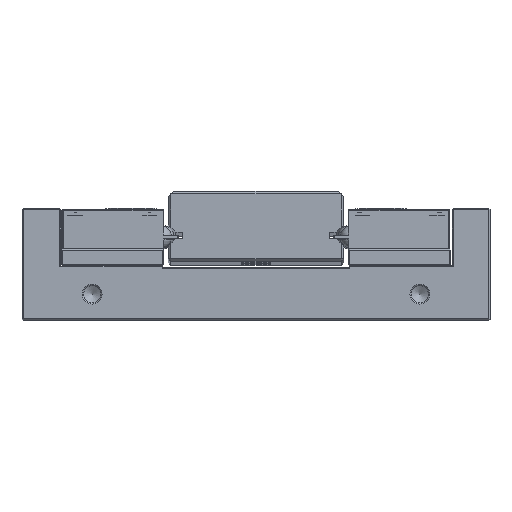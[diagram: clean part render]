
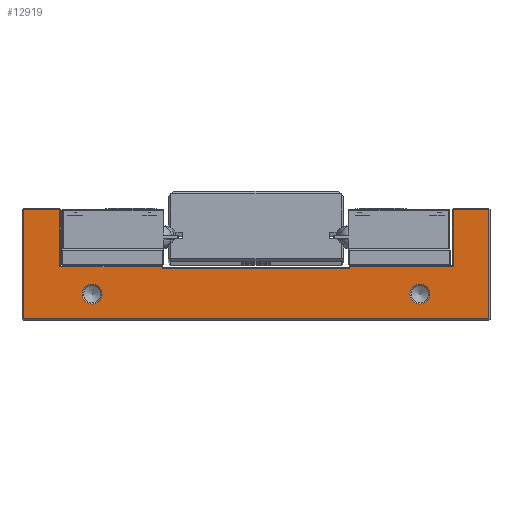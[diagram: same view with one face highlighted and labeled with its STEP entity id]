
A CAD part, top view. The second image highlights one B-rep face of the part: STEP entity #12919.
In plain terms, the highlighted planar face has unit normal (0, 0, 1).
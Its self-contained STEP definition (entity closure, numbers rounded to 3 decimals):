
#440=FACE_BOUND('',#2300,.T.);
#441=FACE_BOUND('',#2301,.T.);
#878=PLANE('',#14043);
#1499=FACE_OUTER_BOUND('',#2299,.T.);
#2299=EDGE_LOOP('',(#10599,#10600,#10601,#10602,#10603,#10604,#10605,#10606,
#10607,#10608,#10609,#10610));
#2300=EDGE_LOOP('',(#10611));
#2301=EDGE_LOOP('',(#10612));
#3335=LINE('',#21620,#4394);
#3373=LINE('',#21739,#4432);
#3374=LINE('',#21742,#4433);
#3376=LINE('',#21746,#4435);
#3377=LINE('',#21748,#4436);
#3378=LINE('',#21750,#4437);
#3379=LINE('',#21752,#4438);
#3380=LINE('',#21754,#4439);
#3381=LINE('',#21756,#4440);
#3382=LINE('',#21758,#4441);
#3383=LINE('',#21759,#4442);
#3384=LINE('',#21760,#4443);
#4394=VECTOR('',#16713,10.);
#4432=VECTOR('',#16843,10.);
#4433=VECTOR('',#16846,10.);
#4435=VECTOR('',#16850,10.);
#4436=VECTOR('',#16851,10.);
#4437=VECTOR('',#16852,10.);
#4438=VECTOR('',#16853,10.);
#4439=VECTOR('',#16854,10.);
#4440=VECTOR('',#16855,10.);
#4441=VECTOR('',#16856,10.);
#4442=VECTOR('',#16857,10.);
#4443=VECTOR('',#16858,10.);
#5002=CIRCLE('',#14044,3.824);
#5003=CIRCLE('',#14045,3.824);
#5973=VERTEX_POINT('',#21617);
#5974=VERTEX_POINT('',#21619);
#6008=VERTEX_POINT('',#21735);
#6009=VERTEX_POINT('',#21737);
#6010=VERTEX_POINT('',#21741);
#6011=VERTEX_POINT('',#21745);
#6012=VERTEX_POINT('',#21747);
#6013=VERTEX_POINT('',#21749);
#6014=VERTEX_POINT('',#21751);
#6015=VERTEX_POINT('',#21753);
#6016=VERTEX_POINT('',#21755);
#6017=VERTEX_POINT('',#21757);
#6018=VERTEX_POINT('',#21761);
#6019=VERTEX_POINT('',#21763);
#7547=EDGE_CURVE('',#5974,#5973,#3335,.T.);
#7607=EDGE_CURVE('',#6009,#6008,#3373,.T.);
#7608=EDGE_CURVE('',#6010,#6008,#3374,.T.);
#7610=EDGE_CURVE('',#6011,#6009,#3376,.T.);
#7611=EDGE_CURVE('',#6012,#6011,#3377,.T.);
#7612=EDGE_CURVE('',#6013,#6012,#3378,.T.);
#7613=EDGE_CURVE('',#6014,#6013,#3379,.T.);
#7614=EDGE_CURVE('',#6015,#6014,#3380,.T.);
#7615=EDGE_CURVE('',#6016,#6015,#3381,.T.);
#7616=EDGE_CURVE('',#6017,#6016,#3382,.T.);
#7617=EDGE_CURVE('',#5974,#6017,#3383,.T.);
#7618=EDGE_CURVE('',#6010,#5973,#3384,.T.);
#7619=EDGE_CURVE('',#6018,#6018,#5002,.T.);
#7620=EDGE_CURVE('',#6019,#6019,#5003,.T.);
#10599=ORIENTED_EDGE('',*,*,#7607,.F.);
#10600=ORIENTED_EDGE('',*,*,#7610,.F.);
#10601=ORIENTED_EDGE('',*,*,#7611,.F.);
#10602=ORIENTED_EDGE('',*,*,#7612,.F.);
#10603=ORIENTED_EDGE('',*,*,#7613,.F.);
#10604=ORIENTED_EDGE('',*,*,#7614,.F.);
#10605=ORIENTED_EDGE('',*,*,#7615,.F.);
#10606=ORIENTED_EDGE('',*,*,#7616,.F.);
#10607=ORIENTED_EDGE('',*,*,#7617,.F.);
#10608=ORIENTED_EDGE('',*,*,#7547,.T.);
#10609=ORIENTED_EDGE('',*,*,#7618,.F.);
#10610=ORIENTED_EDGE('',*,*,#7608,.T.);
#10611=ORIENTED_EDGE('',*,*,#7619,.F.);
#10612=ORIENTED_EDGE('',*,*,#7620,.F.);
#12919=ADVANCED_FACE('',(#1499,#440,#441),#878,.T.);
#14043=AXIS2_PLACEMENT_3D('',#21744,#16848,#16849);
#14044=AXIS2_PLACEMENT_3D('',#21762,#16859,#16860);
#14045=AXIS2_PLACEMENT_3D('',#21764,#16861,#16862);
#16713=DIRECTION('',(0.,-1.,0.));
#16843=DIRECTION('',(1.,0.,0.));
#16846=DIRECTION('',(0.,1.,0.));
#16848=DIRECTION('center_axis',(0.,0.,
1.));
#16849=DIRECTION('ref_axis',(1.,0.,0.));
#16850=DIRECTION('',(0.,-1.,0.));
#16851=DIRECTION('',(1.,0.,0.));
#16852=DIRECTION('',(0.,1.,0.));
#16853=DIRECTION('',(-1.,0.,0.));
#16854=DIRECTION('',(0.,-1.,0.));
#16855=DIRECTION('',(1.,0.,0.));
#16856=DIRECTION('',(0.,1.,0.));
#16857=DIRECTION('',(1.,0.,0.));
#16858=DIRECTION('',(1.,0.,0.));
#16859=DIRECTION('center_axis',(0.,0.,
1.));
#16860=DIRECTION('ref_axis',(-1.,0.,0.));
#16861=DIRECTION('center_axis',(0.,0.,
1.));
#16862=DIRECTION('ref_axis',(-1.,0.,0.));
#21617=CARTESIAN_POINT('',(27.11,-21.38,59.754));
#21619=CARTESIAN_POINT('',(27.11,-20.58,59.754));
#21620=CARTESIAN_POINT('',(27.11,-20.08,59.754));
#21735=CARTESIAN_POINT('',(-44.89,-20.58,59.754));
#21737=CARTESIAN_POINT('',(-84.39,-20.58,59.754));
#21739=CARTESIAN_POINT('',(-26.89,-20.58,59.754));
#21741=CARTESIAN_POINT('',(-44.89,-21.38,59.754));
#21742=CARTESIAN_POINT('',(-44.89,-20.88,59.754));
#21744=CARTESIAN_POINT('Origin',(-8.89,-19.58,59.754));
#21745=CARTESIAN_POINT('',(-84.39,1.42,59.754));
#21746=CARTESIAN_POINT('',(-84.39,-19.83,59.754));
#21747=CARTESIAN_POINT('',(-98.39,1.42,59.754));
#21748=CARTESIAN_POINT('',(-46.39,1.42,59.754));
#21749=CARTESIAN_POINT('',(-98.39,-40.58,59.754));
#21750=CARTESIAN_POINT('',(-98.39,-8.83,59.754));
#21751=CARTESIAN_POINT('',(80.61,-40.58,59.754));
#21752=CARTESIAN_POINT('',(-53.89,-40.58,59.754));
#21753=CARTESIAN_POINT('',(80.61,1.42,59.754));
#21754=CARTESIAN_POINT('',(80.61,-30.33,59.754));
#21755=CARTESIAN_POINT('',(67.11,1.42,59.754));
#21756=CARTESIAN_POINT('',(36.11,1.42,59.754));
#21757=CARTESIAN_POINT('',(67.11,-20.58,59.754));
#21758=CARTESIAN_POINT('',(67.11,-8.83,59.754));
#21759=CARTESIAN_POINT('',(28.86,-20.58,59.754));
#21760=CARTESIAN_POINT('',(9.11,-21.38,59.754));
#21761=CARTESIAN_POINT('',(57.933,-31.08,59.754));
#21762=CARTESIAN_POINT('Origin',(54.11,-31.08,59.754));
#21763=CARTESIAN_POINT('',(-68.067,-31.08,59.754));
#21764=CARTESIAN_POINT('Origin',(-71.89,-31.08,59.754));
